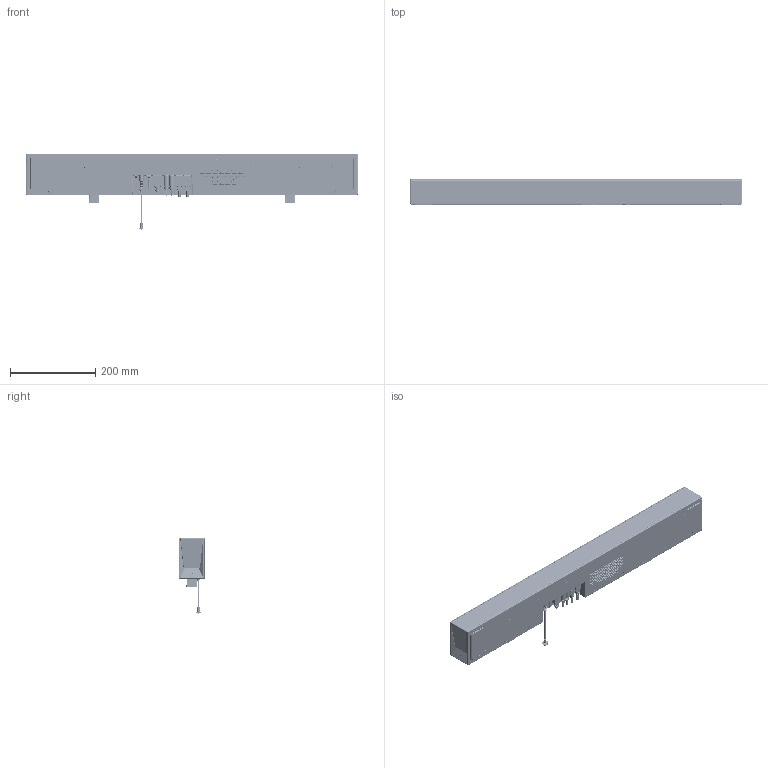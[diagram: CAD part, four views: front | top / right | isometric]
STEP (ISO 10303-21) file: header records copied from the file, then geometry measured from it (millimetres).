
FILE_DESCRIPTION((''),'2;1');
FILE_NAME('BFX_UA300_ASM_MOULD_REV00_ASM','2020-10-08T',('kym12'),(''),'CREO PARAMETRIC BY PTC INC, 2017170','CREO PARAMETRIC BY PTC INC, 2017170','');
FILE_SCHEMA(('AUTOMOTIVE_DESIGN { 1 0 10303 214 1 1 1 1 }'));
Products named in the file (275): HOLDER_GRILL_UA300_11_1; HOLDER_GRILL_ASSY_UA300_ASM_2_A_ASM; FABRIC_UA300_12_1; LENS_LED_GOOGLE_ASSISTANT_UA300; LENS_LED_NUGU_AI_UA300_17_1; SCREW_TTS_3_7_4_1; FRAME_NET_CENTER_UA300_200903_3; FRAME_NET_LEFT_UA300_200903_26_; FRAME_NET_RIGHT_UA300_200903_30; FRAME_NET_ASSY_UA300_ASM_22_ASM_ASM; LED_PCB_1_1_1; LED_EVERLIGHT_R6GHY5C_1_-328363; LP5024-DRIVER-IC_1_1_1; LP5036-DRIVER-IC_1_1_2_3_1_1; HS6108E-8PIN-VERTICAL_1_2_1; IR_RECEIVER_1_1_1; CONNECTOR_PLUG-8PIN-2_1_1_1; S-87214-0800_6_2_1; LED_PCB_ASSY_ASM_4_ASM_2_ASM_1_ASM; LED_PCB_ASSY_ASM_ASM_2_ASM_1_ASM; LENS_LED_STATUS_UA300_4_1; GRILL_ASSY_UA300_ASM_88_ASM_1_ASM; CASE_TOP_UA300_122_1; BUTTON_FUNCTION_UA300_112_1; BUTTON_PCB_15_1_1; TACT_SWITCH_3_1_1; MSBR-13-001_1_1_1_1; MSBR-12-001_1_1_1_1; MSBR-11-001_1_1_1_1; MSBR-10-001_1_1_1_1; MSBR-9-001_1_1_1_1; MSBR-8-001_1_1_1_1; MSBR-7-001_1_1_1_1; MSBR-6-001_1_1_1_1; MSBR-5-001_1_1_1_1; MSBR-4-001_1_1_1_1; MSBR-3-001_1_1_1_1; MSBR-2-001_1_1_1_1; MSBR-1-001_1_1_1_1; HS6110E-10PIN_ASM_2_1_ASM_1_ASM_ASM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
Assembly tree (467 placements, depth 11):
  BFX_UA300_ASM_MOULD_REV00_ASM
    BFX_UA300_ASM_MOULD_REV00_ASM_1_ASM
      BFX_UA300_ASM_492_ASM_1_ASM
        HOLDER_GRILL_ASSY_UA300_ASM_2_A_ASM
          HOLDER_GRILL_UA300_11_1  x16
        GRILL_ASSY_UA300_ASM_88_ASM_1_ASM
          FABRIC_UA300_12_1
          LENS_LED_GOOGLE_ASSISTANT_UA300
          LENS_LED_NUGU_AI_UA300_17_1
          SCREW_TTS_3_7_4_1  x6
          FRAME_NET_ASSY_UA300_ASM_22_ASM_ASM
            FRAME_NET_CENTER_UA300_200903_3
            FRAME_NET_LEFT_UA300_200903_26_
            FRAME_NET_RIGHT_UA300_200903_30
          LED_PCB_ASSY_ASM_ASM_2_ASM_1_ASM
            LED_PCB_ASSY_ASM_4_ASM_2_ASM_1_ASM
              LED_PCB_1_1_1
              LED_EVERLIGHT_R6GHY5C_1_-328363  x26
              LP5024-DRIVER-IC_1_1_1
              LP5036-DRIVER-IC_1_1_2_3_1_1  x2
              HS6108E-8PIN-VERTICAL_1_2_1  x3
              IR_RECEIVER_1_1_1
              CONNECTOR_PLUG-8PIN-2_1_1_1  x3
              S-87214-0800_6_2_1  x3
          LENS_LED_STATUS_UA300_4_1
        CASE_TOP_ASSY_UA300_ASM_109_ASM_ASM
          CASE_TOP_UA300_122_1
          BUTTON_FUNCTION_UA300_112_1
          BUTTON_PCB_ASSY_20200717_ASM_1__ASM
            BUTTON_PCB_ASSY_ASM_11_ASM_1_AS_ASM
              BUTTON_PCB_15_1_1
              TACT_SWITCH_3_1_1  x8
              HS6110E-10PIN_ASM_2_1_ASM_1_ASM_ASM
                MSBR-13-001_1_1_1_1
                MSBR-12-001_1_1_1_1
                MSBR-11-001_1_1_1_1
                MSBR-10-001_1_1_1_1
                MSBR-9-001_1_1_1_1
                MSBR-8-001_1_1_1_1
                MSBR-7-001_1_1_1_1
                MSBR-6-001_1_1_1_1
                MSBR-5-001_1_1_1_1
                MSBR-4-001_1_1_1_1
                MSBR-3-001_1_1_1_1
                MSBR-2-001_1_1_1_1
                MSBR-1-001_1_1_1_1
          BUTTON_PCB_ASSY_20200720_ASM_1__ASM
            BUTTON_PCB_ASSY_ASM_12_ASM_1_AS_ASM
              BUTTON_PCB_16_1_1
              TACT_SWITCH_3_1_1_1  x8
              HS6110E-10PIN_ASM_2_1_2_ASM_1_A_ASM
                MSBR-13-001_1_1_2_1_1
                MSBR-12-001_1_1_2_1_1
                MSBR-11-001_1_1_2_1_1
                MSBR-10-001_1_1_2_1_1
                MSBR-9-001_1_1_2_1_1
                MSBR-8-001_1_1_2_1_1
                MSBR-7-001_1_1_2_1_1
                MSBR-6-001_1_1_2_1_1
                MSBR-5-001_1_1_2_1_1
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Bounding box: 780.6 x 62.8 x 179.8 mm (x, y, z)
Volume: 1509607.4 mm3; surface area: 1683642.8 mm2
Topology: 423 solids, 476 shells, 48045 faces, 133614 edges, 87909 vertices
Faces by surface type: plane 30625, cylinder 9870, cone 4356, bspline 1879, torus 801, extrusion 272, sphere 224, revolution 18
Entity records: 1162961 total; most frequent: CARTESIAN_POINT 291623, ORIENTED_EDGE 175164, DIRECTION 166028, EDGE_CURVE 87582, VECTOR 59974, LINE 59762, VERTEX_POINT 57844, AXIS2_PLACEMENT_3D 53018
